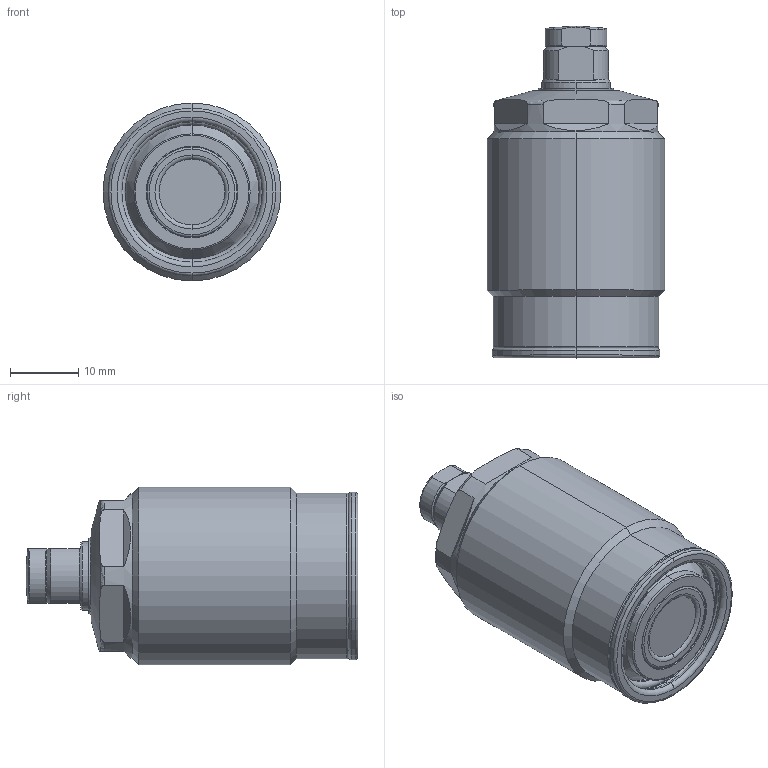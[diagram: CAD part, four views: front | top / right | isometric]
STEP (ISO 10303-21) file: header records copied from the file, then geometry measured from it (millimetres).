
FILE_DESCRIPTION(/* description */ (''),/* implementation_level */ '2;1');
FILE_NAME(/* name */ 'TSC26-S.stp',/* time_stamp */ '2025-01-10T14:59:13+08:00',/* author */ (''),/* organization */ (''),/* preprocessor_version */ 'ST-DEVELOPER v16.7',/* originating_system */ 'SIEMENS PLM Software NX 12.0',/* authorisation */ '');
FILE_SCHEMA (('AUTOMOTIVE_DESIGN { 1 0 10303 214 3 1 1 1 }'));
Length unit declared in the file: millimetre
Products named in the file (7): XLD-M6_Oring3902; XLD-M6_contactbolt18; TSC26-S-005; TSC26-S-03; TSC26-S-01; TSC26-S-04; TSC26-S_stp
Assembly tree (6 placements, depth 3):
  TSC26-S_stp
    TSC26-S-01
    TSC26-S-03
    TSC26-S-04
      XLD-M6_contactbolt18
      XLD-M6_Oring3902
    TSC26-S-005
Bounding box: 26 x 48.5 x 26 mm (x, y, z)
Volume: 19333.8 mm3; surface area: 6131.3 mm2
Topology: 5 solids, 6 shells, 170 faces, 370 edges, 218 vertices
Faces by surface type: torus 56, cylinder 44, plane 36, cone 32, sphere 2
Entity records: 5132 total; most frequent: CARTESIAN_POINT 1183, DIRECTION 900, ORIENTED_EDGE 736, AXIS2_PLACEMENT_3D 399, EDGE_CURVE 368, CIRCLE 222, VERTEX_POINT 218, EDGE_LOOP 182
